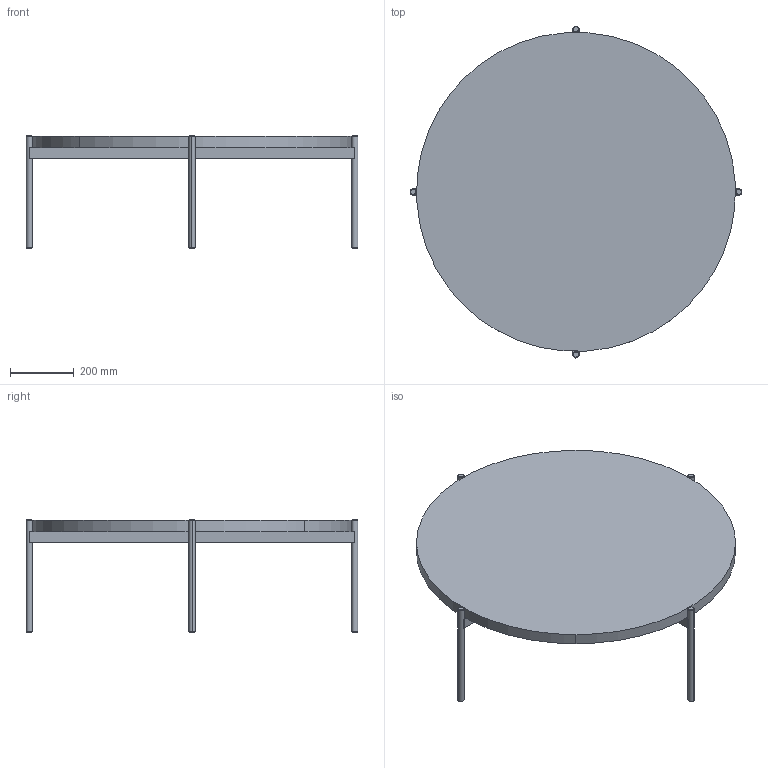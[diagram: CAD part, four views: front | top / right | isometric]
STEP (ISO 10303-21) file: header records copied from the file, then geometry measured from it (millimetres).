
FILE_DESCRIPTION(/* description */ (''),/* implementation_level */ '2;1');
FILE_NAME(/* name */ 'D5CYAG~G',/* time_stamp */ '2022-08-18T08:05:48+02:00',/* author */ (''),/* organization */ (''),/* preprocessor_version */ 'ST-DEVELOPER v16.5',/* originating_system */ '',/* authorisation */ '');
FILE_SCHEMA (('AUTOMOTIVE_DESIGN'));
Length unit declared in the file: millimetre
Products named in the file (1): Document
Bounding box: 1040 x 1040 x 352 mm (x, y, z)
Volume: 29429075.3 mm3; surface area: 2000798.3 mm2
Topology: 7 solids, 7 shells, 48 faces, 87 edges, 53 vertices
Faces by surface type: bspline 26, plane 22
Entity records: 1289 total; most frequent: CARTESIAN_POINT 626, ORIENTED_EDGE 172, EDGE_CURVE 86, VERTEX_POINT 52, ADVANCED_FACE 48, FACE_OUTER_BOUND 48, EDGE_LOOP 48, B_SPLINE_CURVE_WITH_KNOTS 44
